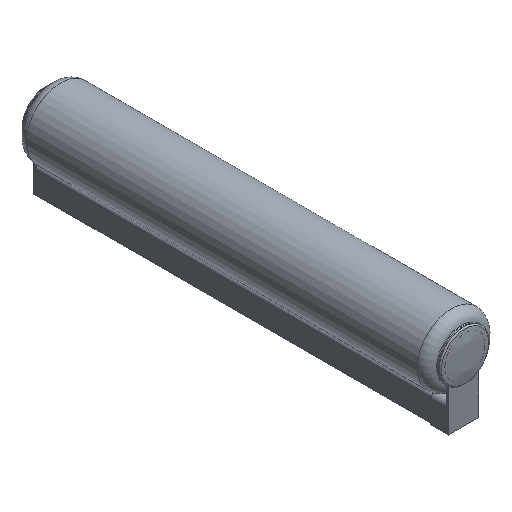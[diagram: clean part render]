
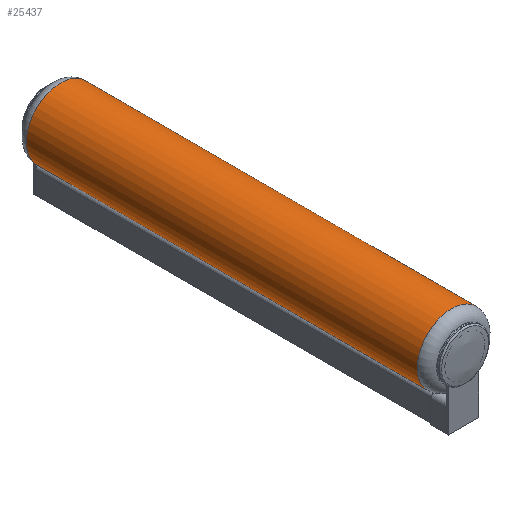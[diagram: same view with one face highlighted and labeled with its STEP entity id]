
A CAD part, isometric view. The second image highlights one B-rep face of the part: STEP entity #25437.
In plain terms, the highlighted cylindrical face has radius 50 mm (diameter 100 mm), a full revolution.
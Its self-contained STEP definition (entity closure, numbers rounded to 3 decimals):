
#3792=FACE_OUTER_BOUND('',#5330,.T.);
#5330=EDGE_LOOP('',(#23536,#23537,#23538,#23539,#23540,#23541));
#7307=LINE('',#45670,#9282);
#9282=VECTOR('',#35893,50.);
#10458=CIRCLE('',#28710,50.);
#10459=CIRCLE('',#28711,50.);
#10464=CIRCLE('',#28717,50.);
#10465=CIRCLE('',#28718,50.);
#12792=VERTEX_POINT('',#45633);
#12793=VERTEX_POINT('',#45634);
#12796=VERTEX_POINT('',#45643);
#12797=VERTEX_POINT('',#45645);
#16366=EDGE_CURVE('',#12792,#12793,#10458,.T.);
#16367=EDGE_CURVE('',#12793,#12792,#10459,.T.);
#16372=EDGE_CURVE('',#12796,#12797,#10464,.T.);
#16373=EDGE_CURVE('',#12797,#12796,#10465,.T.);
#16383=EDGE_CURVE('',#12797,#12792,#7307,.T.);
#23536=ORIENTED_EDGE('',*,*,#16373,.F.);
#23537=ORIENTED_EDGE('',*,*,#16383,.T.);
#23538=ORIENTED_EDGE('',*,*,#16366,.T.);
#23539=ORIENTED_EDGE('',*,*,#16367,.T.);
#23540=ORIENTED_EDGE('',*,*,#16383,.F.);
#23541=ORIENTED_EDGE('',*,*,#16372,.F.);
#24069=CYLINDRICAL_SURFACE('',#28732,50.);
#25437=ADVANCED_FACE('',(#3792),#24069,.T.);
#28710=AXIS2_PLACEMENT_3D('',#45635,#35845,#35846);
#28711=AXIS2_PLACEMENT_3D('',#45636,#35847,#35848);
#28717=AXIS2_PLACEMENT_3D('',#45646,#35859,#35860);
#28718=AXIS2_PLACEMENT_3D('',#45647,#35861,#35862);
#28732=AXIS2_PLACEMENT_3D('',#45669,#35891,#35892);
#35845=DIRECTION('center_axis',(1.,0.,0.));
#35846=DIRECTION('ref_axis',(0.,0.,-1.));
#35847=DIRECTION('center_axis',(1.,0.,0.));
#35848=DIRECTION('ref_axis',(0.,0.,-1.));
#35859=DIRECTION('center_axis',(1.,0.,0.));
#35860=DIRECTION('ref_axis',(0.,0.,-1.));
#35861=DIRECTION('center_axis',(1.,0.,0.));
#35862=DIRECTION('ref_axis',(0.,0.,-1.));
#35891=DIRECTION('center_axis',(1.,0.,0.));
#35892=DIRECTION('ref_axis',(0.,1.,0.));
#35893=DIRECTION('',(-1.,0.,0.));
#45633=CARTESIAN_POINT('',(15.,-50.,0.));
#45634=CARTESIAN_POINT('',(15.,0.,50.));
#45635=CARTESIAN_POINT('Origin',(15.,0.,0.));
#45636=CARTESIAN_POINT('Origin',(15.,0.,0.));
#45643=CARTESIAN_POINT('',(585.,0.,50.));
#45645=CARTESIAN_POINT('',(585.,-50.,0.));
#45646=CARTESIAN_POINT('Origin',(585.,0.,0.));
#45647=CARTESIAN_POINT('Origin',(585.,0.,0.));
#45669=CARTESIAN_POINT('Origin',(300.,0.,0.));
#45670=CARTESIAN_POINT('',(300.,-50.,0.));
